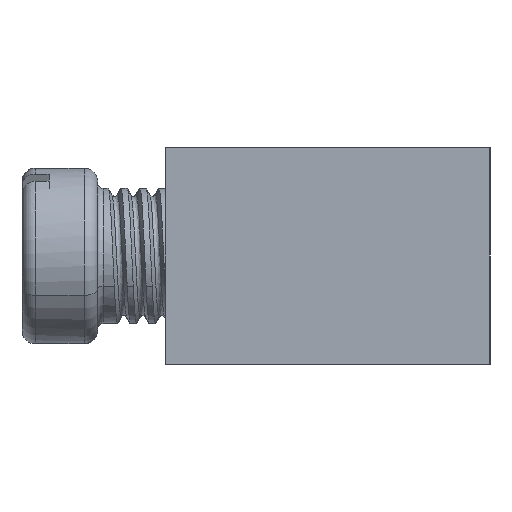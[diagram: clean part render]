
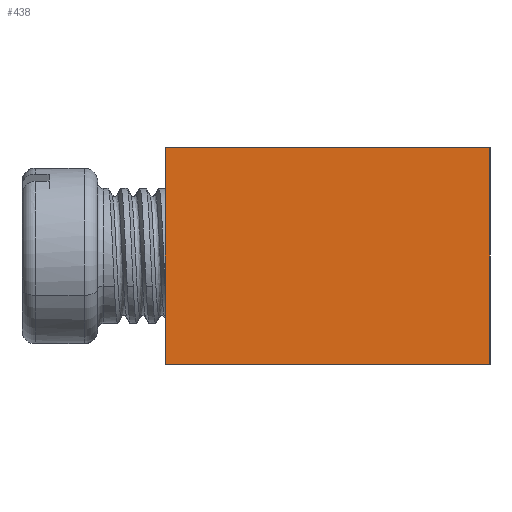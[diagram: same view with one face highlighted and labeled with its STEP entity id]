
A CAD part, left-side view. The second image highlights one B-rep face of the part: STEP entity #438.
In plain terms, the highlighted planar face has unit normal (-1, 0, 0).
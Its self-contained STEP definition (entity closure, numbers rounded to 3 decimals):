
#75 = ORIENTED_EDGE ( 'NONE', *, *, #916, .F. ) ;
#438 = ADVANCED_FACE ( 'NONE', ( #7908 ), #8066, .T. ) ;
#466 = ORIENTED_EDGE ( 'NONE', *, *, #10046, .T. ) ;
#916 = EDGE_CURVE ( 'NONE', #1876, #7333, #3336, .T. ) ;
#1593 = CARTESIAN_POINT ( 'NONE',  ( 0., 12., 0. ) ) ;
#1699 = VERTEX_POINT ( 'NONE', #4934 ) ;
#1740 = CARTESIAN_POINT ( 'NONE',  ( 0., 0., -8. ) ) ;
#1876 = VERTEX_POINT ( 'NONE', #5953 ) ;
#2299 = CARTESIAN_POINT ( 'NONE',  ( 0., 0., -8. ) ) ;
#2520 = CARTESIAN_POINT ( 'NONE',  ( 0., 0., 0. ) ) ;
#2662 = CARTESIAN_POINT ( 'NONE',  ( 0., 0., 0. ) ) ;
#2938 = CARTESIAN_POINT ( 'NONE',  ( 0., 0., -8. ) ) ;
#3023 = LINE ( 'NONE', #2299, #5131 ) ;
#3084 = VECTOR ( 'NONE', #10033, 1000. ) ;
#3271 = DIRECTION ( 'NONE',  ( -1., 0., 0. ) ) ;
#3336 = LINE ( 'NONE', #3759, #3084 ) ;
#3339 = DIRECTION ( 'NONE',  ( 0., 0., 1. ) ) ;
#3502 = EDGE_LOOP ( 'NONE', ( #3676, #75, #8873, #466 ) ) ;
#3676 = ORIENTED_EDGE ( 'NONE', *, *, #3947, .F. ) ;
#3759 = CARTESIAN_POINT ( 'NONE',  ( 0., 12., -8. ) ) ;
#3947 = EDGE_CURVE ( 'NONE', #7333, #6097, #6995, .T. ) ;
#4086 = DIRECTION ( 'NONE',  ( 0., -1., 0. ) ) ;
#4934 = CARTESIAN_POINT ( 'NONE',  ( 0., 0., -8. ) ) ;
#5099 = EDGE_CURVE ( 'NONE', #1876, #1699, #6488, .T. ) ;
#5131 = VECTOR ( 'NONE', #8722, 1000. ) ;
#5236 = AXIS2_PLACEMENT_3D ( 'NONE', #1740, #3271, #3339 ) ;
#5953 = CARTESIAN_POINT ( 'NONE',  ( 0., 12., -8. ) ) ;
#6097 = VERTEX_POINT ( 'NONE', #2520 ) ;
#6488 = LINE ( 'NONE', #2938, #8285 ) ;
#6995 = LINE ( 'NONE', #2662, #8557 ) ;
#7333 = VERTEX_POINT ( 'NONE', #1593 ) ;
#7681 = DIRECTION ( 'NONE',  ( 0., -1., 0. ) ) ;
#7908 = FACE_OUTER_BOUND ( 'NONE', #3502, .T. ) ;
#8066 = PLANE ( 'NONE',  #5236 ) ;
#8285 = VECTOR ( 'NONE', #7681, 1000. ) ;
#8557 = VECTOR ( 'NONE', #4086, 1000. ) ;
#8722 = DIRECTION ( 'NONE',  ( 0., 0., 1. ) ) ;
#8873 = ORIENTED_EDGE ( 'NONE', *, *, #5099, .T. ) ;
#10033 = DIRECTION ( 'NONE',  ( 0., 0., 1. ) ) ;
#10046 = EDGE_CURVE ( 'NONE', #1699, #6097, #3023, .T. ) ;
